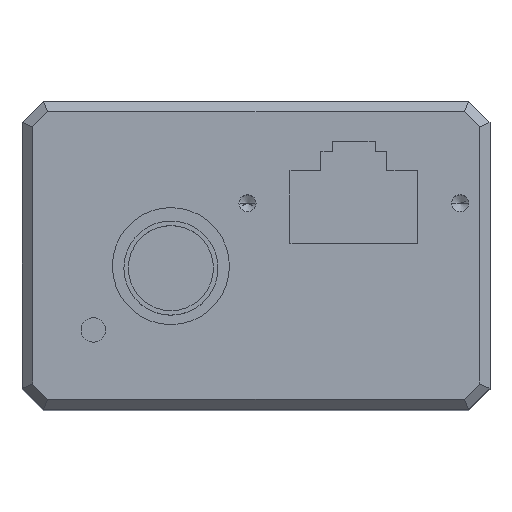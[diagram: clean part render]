
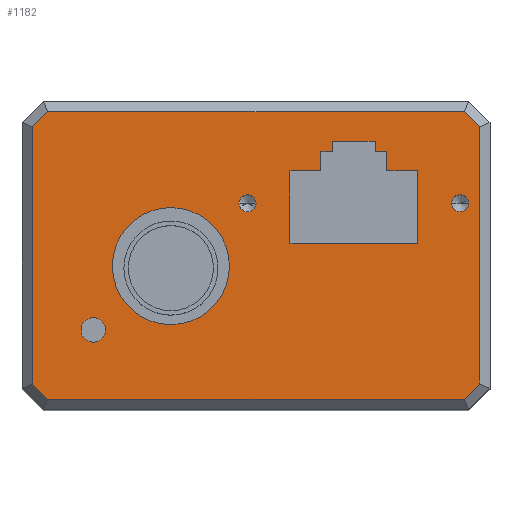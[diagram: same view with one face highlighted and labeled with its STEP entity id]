
A CAD part, top view. The second image highlights one B-rep face of the part: STEP entity #1182.
In plain terms, the highlighted planar face has unit normal (0, 0, 1).
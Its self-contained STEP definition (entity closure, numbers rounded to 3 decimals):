
#1=DIRECTION('',(0.,-1.,0.));
#2=VECTOR('',#1,24.172);
#3=CARTESIAN_POINT('',(21.,12.086,60.));
#4=LINE('',#3,#2);
#5=DIRECTION('',(-0.707,-0.707,0.));
#6=VECTOR('',#5,2.);
#7=CARTESIAN_POINT('',(21.,-12.086,60.));
#8=LINE('',#7,#6);
#9=DIRECTION('',(-1.,0.,0.));
#10=VECTOR('',#9,39.172);
#11=CARTESIAN_POINT('',(19.586,-13.5,60.));
#12=LINE('',#11,#10);
#13=DIRECTION('',(-0.707,0.707,0.));
#14=VECTOR('',#13,2.);
#15=CARTESIAN_POINT('',(-19.586,-13.5,60.));
#16=LINE('',#15,#14);
#17=DIRECTION('',(0.,1.,0.));
#18=VECTOR('',#17,24.172);
#19=CARTESIAN_POINT('',(-21.,-12.086,60.));
#20=LINE('',#19,#18);
#21=DIRECTION('',(0.707,0.707,0.));
#22=VECTOR('',#21,2.);
#23=CARTESIAN_POINT('',(-21.,12.086,60.));
#24=LINE('',#23,#22);
#25=DIRECTION('',(1.,0.,0.));
#26=VECTOR('',#25,39.172);
#27=CARTESIAN_POINT('',(-19.586,13.5,60.));
#28=LINE('',#27,#26);
#29=DIRECTION('',(0.707,-0.707,0.));
#30=VECTOR('',#29,2.);
#31=CARTESIAN_POINT('',(19.586,13.5,60.));
#32=LINE('',#31,#30);
#33=CARTESIAN_POINT('',(-0.8,4.9,60.));
#34=DIRECTION('',(0.,0.,1.));
#35=DIRECTION('',(-1.,0.,0.));
#36=AXIS2_PLACEMENT_3D('',#33,#34,#35);
#38=CARTESIAN_POINT('',(-0.8,4.9,60.));
#39=DIRECTION('',(0.,0.,1.));
#40=DIRECTION('',(1.,0.,0.));
#41=AXIS2_PLACEMENT_3D('',#38,#39,#40);
#43=CARTESIAN_POINT('',(19.2,4.9,60.));
#44=DIRECTION('',(0.,0.,1.));
#45=DIRECTION('',(-1.,0.,0.));
#46=AXIS2_PLACEMENT_3D('',#43,#44,#45);
#48=CARTESIAN_POINT('',(19.2,4.9,60.));
#49=DIRECTION('',(0.,0.,1.));
#50=DIRECTION('',(1.,0.,0.));
#51=AXIS2_PLACEMENT_3D('',#48,#49,#50);
#53=CARTESIAN_POINT('',(-15.3,-7.,60.));
#54=DIRECTION('',(0.,0.,1.));
#55=DIRECTION('',(1.,0.,0.));
#56=AXIS2_PLACEMENT_3D('',#53,#54,#55);
#58=CARTESIAN_POINT('',(-15.3,-7.,60.));
#59=DIRECTION('',(0.,0.,1.));
#60=DIRECTION('',(-1.,0.,0.));
#61=AXIS2_PLACEMENT_3D('',#58,#59,#60);
#63=CARTESIAN_POINT('',(-8.,-1.,60.));
#64=DIRECTION('',(0.,0.,1.));
#65=DIRECTION('',(1.,0.,0.));
#66=AXIS2_PLACEMENT_3D('',#63,#64,#65);
#68=CARTESIAN_POINT('',(-8.,-1.,60.));
#69=DIRECTION('',(0.,0.,1.));
#70=DIRECTION('',(-1.,0.,0.));
#71=AXIS2_PLACEMENT_3D('',#68,#69,#70);
#73=DIRECTION('',(-1.,0.,0.));
#74=VECTOR('',#73,4.);
#75=CARTESIAN_POINT('',(11.196,10.75,60.));
#76=LINE('',#75,#74);
#77=DIRECTION('',(0.,-1.,0.));
#78=VECTOR('',#77,1.);
#79=CARTESIAN_POINT('',(7.196,10.75,60.));
#80=LINE('',#79,#78);
#81=DIRECTION('',(-1.,0.,0.));
#82=VECTOR('',#81,1.1);
#83=CARTESIAN_POINT('',(7.196,9.75,60.));
#84=LINE('',#83,#82);
#85=DIRECTION('',(0.,-1.,0.));
#86=VECTOR('',#85,1.8);
#87=CARTESIAN_POINT('',(6.096,9.75,60.));
#88=LINE('',#87,#86);
#89=DIRECTION('',(-1.,0.,0.));
#90=VECTOR('',#89,2.9);
#91=CARTESIAN_POINT('',(6.096,7.95,60.));
#92=LINE('',#91,#90);
#93=DIRECTION('',(0.,-1.,0.));
#94=VECTOR('',#93,6.8);
#95=CARTESIAN_POINT('',(3.196,7.95,60.));
#96=LINE('',#95,#94);
#97=DIRECTION('',(1.,0.,0.));
#98=VECTOR('',#97,12.);
#99=CARTESIAN_POINT('',(3.196,1.15,60.));
#100=LINE('',#99,#98);
#101=DIRECTION('',(0.,1.,0.));
#102=VECTOR('',#101,6.8);
#103=CARTESIAN_POINT('',(15.196,1.15,60.));
#104=LINE('',#103,#102);
#105=DIRECTION('',(-1.,0.,0.));
#106=VECTOR('',#105,2.9);
#107=CARTESIAN_POINT('',(15.196,7.95,60.));
#108=LINE('',#107,#106);
#109=DIRECTION('',(0.,1.,0.));
#110=VECTOR('',#109,1.8);
#111=CARTESIAN_POINT('',(12.296,7.95,60.));
#112=LINE('',#111,#110);
#113=DIRECTION('',(-1.,0.,0.));
#114=VECTOR('',#113,1.1);
#115=CARTESIAN_POINT('',(12.296,9.75,60.));
#116=LINE('',#115,#114);
#117=DIRECTION('',(0.,1.,0.));
#118=VECTOR('',#117,1.);
#119=CARTESIAN_POINT('',(11.196,9.75,60.));
#120=LINE('',#119,#118);
#861=CARTESIAN_POINT('',(21.,12.086,60.));
#862=CARTESIAN_POINT('',(21.,-12.086,60.));
#863=VERTEX_POINT('',#861);
#864=VERTEX_POINT('',#862);
#865=CARTESIAN_POINT('',(19.586,-13.5,60.));
#866=VERTEX_POINT('',#865);
#867=CARTESIAN_POINT('',(-19.586,-13.5,60.));
#868=VERTEX_POINT('',#867);
#869=CARTESIAN_POINT('',(-21.,-12.086,60.));
#870=VERTEX_POINT('',#869);
#871=CARTESIAN_POINT('',(-21.,12.086,60.));
#872=VERTEX_POINT('',#871);
#873=CARTESIAN_POINT('',(-19.586,13.5,60.));
#874=VERTEX_POINT('',#873);
#875=CARTESIAN_POINT('',(19.586,13.5,60.));
#876=VERTEX_POINT('',#875);
#877=CARTESIAN_POINT('',(-1.6,4.9,60.));
#878=CARTESIAN_POINT('',(0.,4.9,60.));
#879=VERTEX_POINT('',#877);
#880=VERTEX_POINT('',#878);
#881=CARTESIAN_POINT('',(18.4,4.9,60.));
#882=CARTESIAN_POINT('',(20.,4.9,60.));
#883=VERTEX_POINT('',#881);
#884=VERTEX_POINT('',#882);
#885=CARTESIAN_POINT('',(-14.15,-7.,60.));
#886=CARTESIAN_POINT('',(-16.45,-7.,60.));
#887=VERTEX_POINT('',#885);
#888=VERTEX_POINT('',#886);
#889=CARTESIAN_POINT('',(-2.5,-1.,60.));
#890=CARTESIAN_POINT('',(-13.5,-1.,60.));
#891=VERTEX_POINT('',#889);
#892=VERTEX_POINT('',#890);
#893=CARTESIAN_POINT('',(11.196,10.75,60.));
#894=CARTESIAN_POINT('',(7.196,10.75,60.));
#895=VERTEX_POINT('',#893);
#896=VERTEX_POINT('',#894);
#897=CARTESIAN_POINT('',(7.196,9.75,60.));
#898=VERTEX_POINT('',#897);
#899=CARTESIAN_POINT('',(6.096,9.75,60.));
#900=VERTEX_POINT('',#899);
#901=CARTESIAN_POINT('',(6.096,7.95,60.));
#902=VERTEX_POINT('',#901);
#903=CARTESIAN_POINT('',(3.196,7.95,60.));
#904=VERTEX_POINT('',#903);
#905=CARTESIAN_POINT('',(3.196,1.15,60.));
#906=VERTEX_POINT('',#905);
#907=CARTESIAN_POINT('',(15.196,1.15,60.));
#908=VERTEX_POINT('',#907);
#909=CARTESIAN_POINT('',(15.196,7.95,60.));
#910=VERTEX_POINT('',#909);
#911=CARTESIAN_POINT('',(12.296,7.95,60.));
#912=VERTEX_POINT('',#911);
#913=CARTESIAN_POINT('',(12.296,9.75,60.));
#914=VERTEX_POINT('',#913);
#915=CARTESIAN_POINT('',(11.196,9.75,60.));
#916=VERTEX_POINT('',#915);
#1109=CARTESIAN_POINT('',(0.,0.,60.));
#1110=DIRECTION('',(0.,0.,1.));
#1111=DIRECTION('',(1.,0.,0.));
#1112=AXIS2_PLACEMENT_3D('',#1109,#1110,#1111);
#1113=PLANE('',#1112);
#1115=ORIENTED_EDGE('',*,*,#1114,.T.);
#1117=ORIENTED_EDGE('',*,*,#1116,.T.);
#1119=ORIENTED_EDGE('',*,*,#1118,.T.);
#1121=ORIENTED_EDGE('',*,*,#1120,.T.);
#1123=ORIENTED_EDGE('',*,*,#1122,.T.);
#1125=ORIENTED_EDGE('',*,*,#1124,.T.);
#1127=ORIENTED_EDGE('',*,*,#1126,.T.);
#1129=ORIENTED_EDGE('',*,*,#1128,.T.);
#1130=EDGE_LOOP('',(#1115,#1117,#1119,#1121,#1123,#1125,#1127,#1129));
#1131=FACE_OUTER_BOUND('',#1130,.F.);
#1133=ORIENTED_EDGE('',*,*,#1132,.T.);
#1135=ORIENTED_EDGE('',*,*,#1134,.T.);
#1136=EDGE_LOOP('',(#1133,#1135));
#1137=FACE_BOUND('',#1136,.F.);
#1139=ORIENTED_EDGE('',*,*,#1138,.T.);
#1141=ORIENTED_EDGE('',*,*,#1140,.T.);
#1142=EDGE_LOOP('',(#1139,#1141));
#1143=FACE_BOUND('',#1142,.F.);
#1145=ORIENTED_EDGE('',*,*,#1144,.T.);
#1147=ORIENTED_EDGE('',*,*,#1146,.T.);
#1148=EDGE_LOOP('',(#1145,#1147));
#1149=FACE_BOUND('',#1148,.F.);
#1151=ORIENTED_EDGE('',*,*,#1150,.T.);
#1153=ORIENTED_EDGE('',*,*,#1152,.T.);
#1154=EDGE_LOOP('',(#1151,#1153));
#1155=FACE_BOUND('',#1154,.F.);
#1157=ORIENTED_EDGE('',*,*,#1156,.T.);
#1159=ORIENTED_EDGE('',*,*,#1158,.T.);
#1161=ORIENTED_EDGE('',*,*,#1160,.T.);
#1163=ORIENTED_EDGE('',*,*,#1162,.T.);
#1165=ORIENTED_EDGE('',*,*,#1164,.T.);
#1167=ORIENTED_EDGE('',*,*,#1166,.T.);
#1169=ORIENTED_EDGE('',*,*,#1168,.T.);
#1171=ORIENTED_EDGE('',*,*,#1170,.T.);
#1173=ORIENTED_EDGE('',*,*,#1172,.T.);
#1175=ORIENTED_EDGE('',*,*,#1174,.T.);
#1177=ORIENTED_EDGE('',*,*,#1176,.T.);
#1179=ORIENTED_EDGE('',*,*,#1178,.T.);
#1180=EDGE_LOOP('',(#1157,#1159,#1161,#1163,#1165,#1167,#1169,#1171,#1173,#1175,
#1177,#1179));
#1181=FACE_BOUND('',#1180,.F.);
#1182=ADVANCED_FACE('',(#1131,#1137,#1143,#1149,#1155,#1181),#1113,.T.);
#37=CIRCLE('',#36,0.8);
#42=CIRCLE('',#41,0.8);
#47=CIRCLE('',#46,0.8);
#52=CIRCLE('',#51,0.8);
#57=CIRCLE('',#56,1.15);
#62=CIRCLE('',#61,1.15);
#67=CIRCLE('',#66,5.5);
#72=CIRCLE('',#71,5.5);
#1114=EDGE_CURVE('',#863,#864,#4,.T.);
#1116=EDGE_CURVE('',#864,#866,#8,.T.);
#1118=EDGE_CURVE('',#866,#868,#12,.T.);
#1120=EDGE_CURVE('',#868,#870,#16,.T.);
#1122=EDGE_CURVE('',#870,#872,#20,.T.);
#1124=EDGE_CURVE('',#872,#874,#24,.T.);
#1126=EDGE_CURVE('',#874,#876,#28,.T.);
#1128=EDGE_CURVE('',#876,#863,#32,.T.);
#1132=EDGE_CURVE('',#879,#880,#37,.T.);
#1134=EDGE_CURVE('',#880,#879,#42,.T.);
#1138=EDGE_CURVE('',#883,#884,#47,.T.);
#1140=EDGE_CURVE('',#884,#883,#52,.T.);
#1144=EDGE_CURVE('',#887,#888,#57,.T.);
#1146=EDGE_CURVE('',#888,#887,#62,.T.);
#1150=EDGE_CURVE('',#891,#892,#67,.T.);
#1152=EDGE_CURVE('',#892,#891,#72,.T.);
#1156=EDGE_CURVE('',#895,#896,#76,.T.);
#1158=EDGE_CURVE('',#896,#898,#80,.T.);
#1160=EDGE_CURVE('',#898,#900,#84,.T.);
#1162=EDGE_CURVE('',#900,#902,#88,.T.);
#1164=EDGE_CURVE('',#902,#904,#92,.T.);
#1166=EDGE_CURVE('',#904,#906,#96,.T.);
#1168=EDGE_CURVE('',#906,#908,#100,.T.);
#1170=EDGE_CURVE('',#908,#910,#104,.T.);
#1172=EDGE_CURVE('',#910,#912,#108,.T.);
#1174=EDGE_CURVE('',#912,#914,#112,.T.);
#1176=EDGE_CURVE('',#914,#916,#116,.T.);
#1178=EDGE_CURVE('',#916,#895,#120,.T.);
